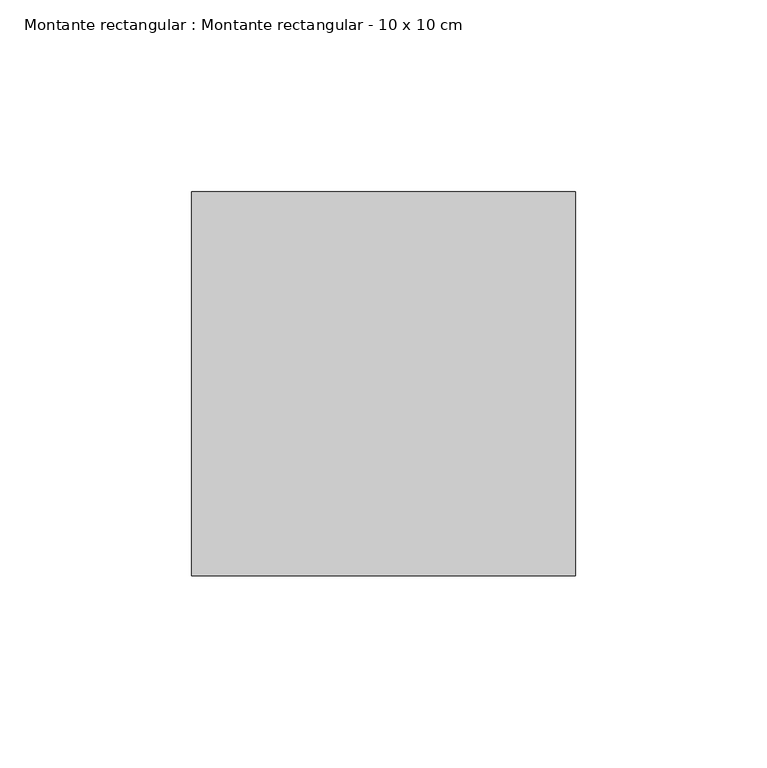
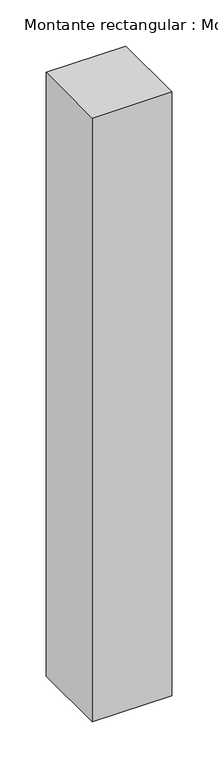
"""IFC4 building model written with IfcOpenShell, lengths in millimetres: member geometry, Montante rectangular : Montante rectangular - 10 x 10 cm."""

from ifc_helpers import new_model, si_unit, frame, origin, place, context, project, spatial, polyline, outline, extrude, source, transform, mapped, element, save


def montante_rectangular_montante_rectangular_10_x_10_cm_76212c23(model_context):
    return source(origin(), model_context, "Body", "SweptSolid", [
        extrude(outline(polyline([(0.0, 50.0), (0.0, -50.0), (-100.0, -50.0), (-100.0, 50.0), (0.0, 50.0)])), frame((0.0, 0.0, -800.0), z_axis=(0.0, 0.0, 1.0), x_axis=(1.0, 0.0, 0.0)), (0.0, 0.0, 1.0), 800.0),
    ])


if __name__ == "__main__":
    model = new_model("IFC4")
    model_context = context("Model", 3, world=origin())
    ifc_project = project(units=[si_unit("LENGTHUNIT", "METRE", prefix="MILLI")], contexts=[model_context])
    site = spatial("IfcSite", under=ifc_project)
    building = spatial("IfcBuilding", under=site)
    placement = place(None, origin())
    montante_rectangular_montante_rectangular_10_x_10_cm_shape = montante_rectangular_montante_rectangular_10_x_10_cm_76212c23(model_context)
    element("IfcMember", 1, ObjectType="Montante rectangular : Montante rectangular - 10 x 10 cm", at=placement, inside=building, context=model_context, shape_type="MappedRepresentation", body=[
        mapped(montante_rectangular_montante_rectangular_10_x_10_cm_shape, transform((0.0, 0.0, 0.0), x_axis=(1.0, 0.0, 0.0), y_axis=(0.0, 1.0, 0.0), z_axis=(0.0, 0.0, 1.0))),
    ])
    save(model, "model.ifc")
